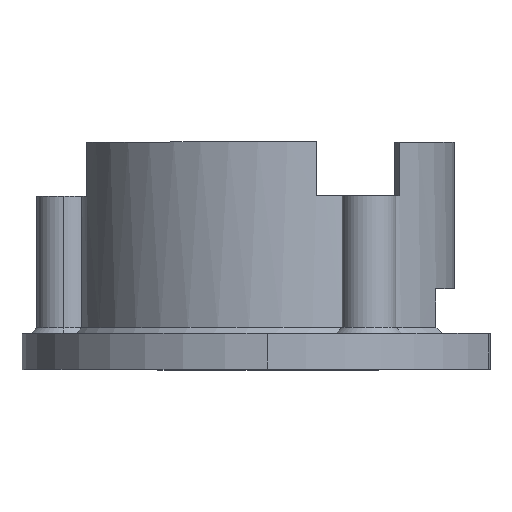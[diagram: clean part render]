
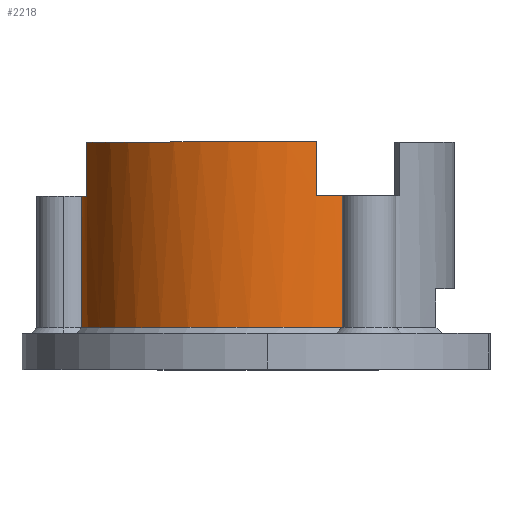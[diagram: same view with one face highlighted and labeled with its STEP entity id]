
A CAD part, top view. The second image highlights one B-rep face of the part: STEP entity #2218.
In plain terms, the highlighted cylindrical face has radius 31.25 mm (diameter 62.5 mm), a partial arc.
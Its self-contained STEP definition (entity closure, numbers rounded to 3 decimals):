
#135 = CARTESIAN_POINT ( 'NONE',  ( -31.063, 7., 3.41 ) ) ;
#229 = CIRCLE ( 'NONE', #290, 31.25 ) ;
#230 = CARTESIAN_POINT ( 'NONE',  ( 12.579, 7., 28.607 ) ) ;
#266 = CARTESIAN_POINT ( 'NONE',  ( -30.209, 29., 8. ) ) ;
#276 = DIRECTION ( 'NONE',  ( 0., 0., -1. ) ) ;
#277 = DIRECTION ( 'NONE',  ( 0., -1., 0. ) ) ;
#278 = AXIS2_PLACEMENT_3D ( 'NONE', #279, #277, #276 ) ;
#279 = CARTESIAN_POINT ( 'NONE',  ( 0., 0., 0. ) ) ;
#280 = CYLINDRICAL_SURFACE ( 'NONE', #278, 31.25 ) ;
#281 = FACE_OUTER_BOUND ( 'NONE', #2216, .T. ) ;
#287 = DIRECTION ( 'NONE',  ( 0., 0., 1. ) ) ;
#288 = DIRECTION ( 'NONE',  ( 0., 1., 0. ) ) ;
#289 = CARTESIAN_POINT ( 'NONE',  ( 0., 7., 0. ) ) ;
#290 = AXIS2_PLACEMENT_3D ( 'NONE', #289, #288, #287 ) ;
#291 = LINE ( 'NONE', #350, #349 ) ;
#302 = CARTESIAN_POINT ( 'NONE',  ( 12.579, 29., 28.607 ) ) ;
#308 = DIRECTION ( 'NONE',  ( 0., -1., 0. ) ) ;
#309 = VECTOR ( 'NONE', #308, 1000. ) ;
#310 = CARTESIAN_POINT ( 'NONE',  ( 8.176, 0., 30.161 ) ) ;
#311 = LINE ( 'NONE', #310, #309 ) ;
#312 = CARTESIAN_POINT ( 'NONE',  ( 8.176, 29., 30.161 ) ) ;
#313 = DIRECTION ( 'NONE',  ( 0., 0., -1. ) ) ;
#314 = DIRECTION ( 'NONE',  ( 0., -1., 0. ) ) ;
#315 = CARTESIAN_POINT ( 'NONE',  ( 0., 38., 0. ) ) ;
#316 = AXIS2_PLACEMENT_3D ( 'NONE', #315, #314, #313 ) ;
#317 = CIRCLE ( 'NONE', #316, 31.25 ) ;
#318 = CARTESIAN_POINT ( 'NONE',  ( -30.209, 38., 8. ) ) ;
#319 = CARTESIAN_POINT ( 'NONE',  ( 8.176, 38., 30.161 ) ) ;
#329 = DIRECTION ( 'NONE',  ( 0., 1., 0. ) ) ;
#330 = VECTOR ( 'NONE', #329, 1000. ) ;
#331 = CARTESIAN_POINT ( 'NONE',  ( -30.209, 0., 8. ) ) ;
#332 = LINE ( 'NONE', #331, #330 ) ;
#333 = DIRECTION ( 'NONE',  ( 0., 0., 1. ) ) ;
#334 = DIRECTION ( 'NONE',  ( 0., -1., 0. ) ) ;
#335 = CARTESIAN_POINT ( 'NONE',  ( 0., 29., 0. ) ) ;
#336 = AXIS2_PLACEMENT_3D ( 'NONE', #335, #334, #333 ) ;
#337 = CIRCLE ( 'NONE', #336, 31.25 ) ;
#338 = DIRECTION ( 'NONE',  ( 0., 0., 1. ) ) ;
#339 = DIRECTION ( 'NONE',  ( 0., -1., 0. ) ) ;
#340 = CARTESIAN_POINT ( 'NONE',  ( 0., 29., 0. ) ) ;
#341 = AXIS2_PLACEMENT_3D ( 'NONE', #340, #339, #338 ) ;
#342 = CIRCLE ( 'NONE', #341, 31.25 ) ;
#348 = DIRECTION ( 'NONE',  ( 0., 1., 0. ) ) ;
#349 = VECTOR ( 'NONE', #348, 1000. ) ;
#350 = CARTESIAN_POINT ( 'NONE',  ( 12.579, 17.5, 28.607 ) ) ;
#502 = VERTEX_POINT ( 'NONE', #1395 ) ;
#507 = EDGE_CURVE ( 'NONE', #502, #1088, #1390, .T. ) ;
#1088 = VERTEX_POINT ( 'NONE', #135 ) ;
#1387 = DIRECTION ( 'NONE',  ( 0., -1., 0. ) ) ;
#1388 = VECTOR ( 'NONE', #1387, 1000. ) ;
#1389 = CARTESIAN_POINT ( 'NONE',  ( -31.063, 17.5, 3.41 ) ) ;
#1390 = LINE ( 'NONE', #1389, #1388 ) ;
#1395 = CARTESIAN_POINT ( 'NONE',  ( -31.063, 29., 3.41 ) ) ;
#2213 = VERTEX_POINT ( 'NONE', #230 ) ;
#2214 = ORIENTED_EDGE ( 'NONE', *, *, #2215, .T. ) ;
#2215 = EDGE_CURVE ( 'NONE', #1088, #2213, #229, .T. ) ;
#2216 = EDGE_LOOP ( 'NONE', ( #2219, #2214, #2255, #2247, #2239, #2237, #2233, #2257 ) ) ;
#2218 = ADVANCED_FACE ( 'NONE', ( #281 ), #280, .T. ) ;
#2219 = ORIENTED_EDGE ( 'NONE', *, *, #507, .T. ) ;
#2225 = VERTEX_POINT ( 'NONE', #266 ) ;
#2233 = ORIENTED_EDGE ( 'NONE', *, *, #2258, .F. ) ;
#2234 = VERTEX_POINT ( 'NONE', #319 ) ;
#2235 = VERTEX_POINT ( 'NONE', #318 ) ;
#2236 = EDGE_CURVE ( 'NONE', #2234, #2235, #317, .T. ) ;
#2237 = ORIENTED_EDGE ( 'NONE', *, *, #2236, .T. ) ;
#2238 = VERTEX_POINT ( 'NONE', #312 ) ;
#2239 = ORIENTED_EDGE ( 'NONE', *, *, #2240, .F. ) ;
#2240 = EDGE_CURVE ( 'NONE', #2234, #2238, #311, .T. ) ;
#2244 = VERTEX_POINT ( 'NONE', #302 ) ;
#2247 = ORIENTED_EDGE ( 'NONE', *, *, #2254, .T. ) ;
#2252 = EDGE_CURVE ( 'NONE', #2213, #2244, #291, .T. ) ;
#2254 = EDGE_CURVE ( 'NONE', #2244, #2238, #342, .T. ) ;
#2255 = ORIENTED_EDGE ( 'NONE', *, *, #2252, .T. ) ;
#2256 = EDGE_CURVE ( 'NONE', #2225, #502, #337, .T. ) ;
#2257 = ORIENTED_EDGE ( 'NONE', *, *, #2256, .T. ) ;
#2258 = EDGE_CURVE ( 'NONE', #2225, #2235, #332, .T. ) ;
